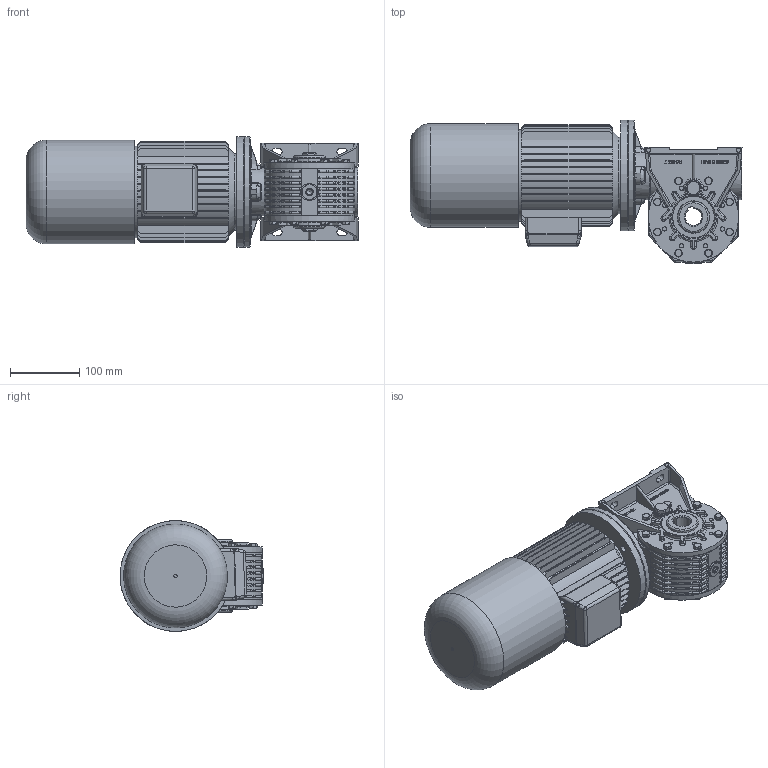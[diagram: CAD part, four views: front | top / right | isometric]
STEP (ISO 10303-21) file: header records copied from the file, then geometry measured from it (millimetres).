
FILE_DESCRIPTION((''),'2;1');
FILE_NAME('Y:\Archivi Inventor\Prog_01\GRAND_20\figuirini\mrv20_sito\71_autofrenante\MRV---20---P1-----71----B5-F3D.stp','2013-02-08T16:07:19',('tech3'),(''),'Autodesk Inventor 2013','Autodesk Inventor 2013','');
FILE_SCHEMA(('AUTOMOTIVE_DESIGN { 1 0 10303 214 1 1 1 1 }'));
Length unit declared in the file: millimetre
Products named in the file (17): fig_mrv20_71_b5; mrv20; 0102001; 01020010; Coperchietto_47x7; Guarnizione 3_8 GAS; Tappo3_8 GAS; Tappo 3_8 GAS_esagn_incsst; mozzo_corona_fig; PARAOLIO 45x60x8; ISO 4017 M6 x 16; 0102029; DIN EN 24017 M6 x 12; 0102028; DIN EN ISO 4762 M6 x 20; 0102006; motori B5 brake 71
Assembly tree (43 placements, depth 3):
  fig_mrv20_71_b5
    mrv20
      0102001
      01020010  x2
      Coperchietto_47x7
      Guarnizione 3_8 GAS  x4
      Tappo3_8 GAS  x2
      Tappo 3_8 GAS_esagn_incsst  x2
      mozzo_corona_fig
      PARAOLIO 45x60x8  x2
      ISO 4017 M6 x 16  x16
      0102029  x2
      DIN EN 24017 M6 x 12  x2
      0102028
      DIN EN ISO 4762 M6 x 20  x4
    0102006
    motori B5 brake 71
Bounding box: 479 x 207.46 x 159.92 mm (x, y, z)
Volume: 4473024.9 mm3; surface area: 766297.5 mm2
Topology: 43 solids, 50 shells, 2733 faces, 6677 edges, 4095 vertices
Faces by surface type: plane 1368, cylinder 605, bspline 383, cone 187, torus 178, sphere 12
Full cylindrical faces by diameter (mm): 2 x2, 4.917 x20, 5 x1, 6 x38, 6.5 x36, 6.75 x4, 8 x2, 8.88 x18, 9.5 x4, 10 x4, 11 x16, 13.046 x2, 14 x1, 14.95 x4, 16.3 x4, 16.5 x2, 22 x8, 25 x2, 40 x1, 41.36 x1, 44.4 x2, 45 x4, 47 x4, 49.5 x1, 50.605 x2, 55.5 x2, 60 x4, 69.5 x1, 70 x2, 100 x6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
Entity records: 65151 total; most frequent: CARTESIAN_POINT 22519, ORIENTED_EDGE 8558, DIRECTION 8336, EDGE_CURVE 4279, AXIS2_PLACEMENT_3D 3125, VERTEX_POINT 2727, EDGE_LOOP 2186, VECTOR 2086
